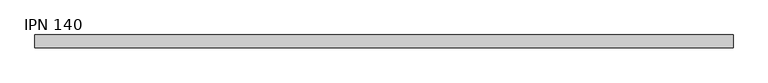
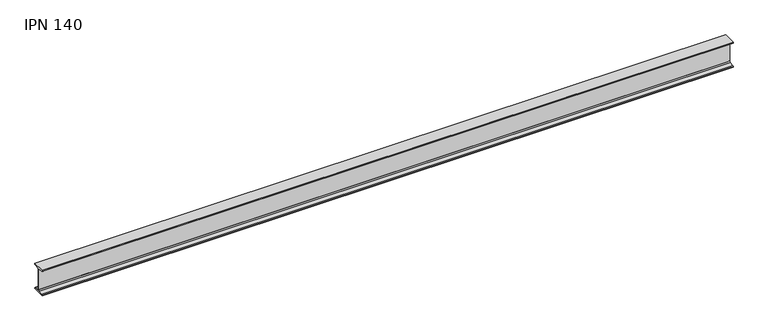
"""IFC4 building model written with IfcOpenShell, lengths in millimetres: beam geometry, IPN - Secciones en I con alas cónicas : IPN 140."""

import ifcopenshell
import ifcopenshell.guid

model = None  # the IFC model being written
_history = None  # IfcOwnerHistory: only IFC2X3 demands one
_inside = {}  # id of a spatial element -> (the spatial element, [elements in it])
_under = {}  # id of a project, library or spatial element -> (it, [spatial elements below it])
_declared = {}  # id of a project -> (the project, [libraries it declares])
_typed = {}  # id of a type object -> (the type object, [elements of that type])
_made_of = {}  # id of a material, layer set ... -> (it, [elements and type objects made of it])


def new_model(schema):
    """Start an empty IFC model of exactly this schema.

    Asked for "IFC4X3", IfcOpenShell would pick the latest addendum, in which some entities
    have other attributes; the version numbers below select the first issue.
    IFC2X3 requires an IfcOwnerHistory on every rooted entity: one is made here for all.
    """
    global model, _history
    if schema == "IFC4X3":
        model = ifcopenshell.file(schema_version=(4, 3, 0, 0))
    else:
        model = ifcopenshell.file(schema=schema)
    _inside.clear()
    _under.clear()
    _declared.clear()
    _typed.clear()
    _made_of.clear()
    _history = None
    if model.schema == "IFC2X3":
        org = make("IfcOrganization", Name="unknown")
        user = make(
            "IfcPersonAndOrganization",
            ThePerson=make("IfcPerson", FamilyName="unknown"),
            TheOrganization=org,
        )
        app = make(
            "IfcApplication",
            ApplicationDeveloper=org,
            Version="unknown",
            ApplicationFullName="unknown",
            ApplicationIdentifier="unknown",
        )
        _history = make(
            "IfcOwnerHistory",
            OwningUser=user,
            OwningApplication=app,
            ChangeAction="ADDED",
            CreationDate=0,
        )
    return model


def make(cls, **values):
    """One entity of the class cls with the attributes given. An attribute that is None is left unset."""
    return model.create_entity(
        cls, **{name: value for name, value in values.items() if value is not None}
    )


def rooted(cls, **values):
    """An entity with a GlobalId (a new one), such as an element, a storey or a relation."""
    return make(cls, GlobalId=ifcopenshell.guid.new(), OwnerHistory=_history, **values)


def si_unit(unit_type, name, prefix=None):
    """IfcSIUnit, for example si_unit("LENGTHUNIT", "METRE", prefix="MILLI")."""
    return make("IfcSIUnit", UnitType=unit_type, Prefix=prefix, Name=name)


def assignment(units):
    """IfcUnitAssignment: the units of a project."""
    return None if units is None else make("IfcUnitAssignment", Units=units)


def point(xyz):
    """IfcCartesianPoint."""
    return None if xyz is None else make("IfcCartesianPoint", Coordinates=xyz)


def direction(xyz):
    """IfcDirection."""
    return None if xyz is None else make("IfcDirection", DirectionRatios=xyz)


def frame(location, z_axis=None, x_axis=None):
    """IfcAxis2Placement3D, a coordinate frame: its origin and axes. An axis left out is left unset."""
    return make(
        "IfcAxis2Placement3D",
        Location=point(location),
        Axis=direction(z_axis),
        RefDirection=direction(x_axis),
    )


def frame_2d(location, x_axis=None):
    """IfcAxis2Placement2D, a coordinate frame in the plane: its origin and x axis."""
    return make(
        "IfcAxis2Placement2D", Location=point(location), RefDirection=direction(x_axis)
    )


def origin():
    """The frame at (0, 0, 0) with its axes left unset."""
    return frame((0.0, 0.0, 0.0))


def place(relative_to, where):
    """IfcLocalPlacement: puts the frame where relative to a parent placement (None: the world)."""
    return make(
        "IfcLocalPlacement", PlacementRelTo=relative_to, RelativePlacement=where
    )


def context(
    kind, dimensions, precision=None, world=None, true_north=None, identifier=None
):
    """IfcGeometricRepresentationContext, for example the 3D "Model" context."""
    return make(
        "IfcGeometricRepresentationContext",
        ContextIdentifier=identifier,
        ContextType=kind,
        CoordinateSpaceDimension=dimensions,
        Precision=precision,
        WorldCoordinateSystem=world,
        TrueNorth=true_north,
    )


def project(units=None, contexts=None):
    """IfcProject with its units and contexts."""
    return rooted(
        "IfcProject",
        Name="project",
        RepresentationContexts=contexts,
        UnitsInContext=assignment(units),
    )


def spatial(cls, under=None, at=None, **own):
    """A site, building, storey or space (cls), placed at a placement, below another one or the project."""
    s = rooted(cls, ObjectPlacement=at, **own)
    if under is not None:
        _under.setdefault(under.id(), (under, []))[1].append(s)
    return s


def polyline(points):
    """IfcPolyline through the points."""
    return make("IfcPolyline", Points=[point(p) for p in points])


def circle_curve(where, radius):
    """IfcCircle in the frame where."""
    return make("IfcCircle", Position=where, Radius=radius)


def trimmed(basis, trim1, trim2, sense, master):
    """IfcTrimmedCurve: the piece of a basis curve between two trims."""
    return make(
        "IfcTrimmedCurve",
        BasisCurve=basis,
        Trim1=trim1,
        Trim2=trim2,
        SenseAgreement=sense,
        MasterRepresentation=master,
    )


def segment(curve, same_sense, transition):
    """IfcCompositeCurveSegment."""
    return make(
        "IfcCompositeCurveSegment",
        Transition=transition,
        SameSense=same_sense,
        ParentCurve=curve,
    )


def composite_curve(segments, self_intersect=None):
    """IfcCompositeCurve: segments joined end to end."""
    return make("IfcCompositeCurve", Segments=segments, SelfIntersect=self_intersect)


def outline(outer, holes=None, kind="AREA"):
    """IfcArbitraryClosedProfileDef: a profile drawn as a closed curve; with holes, ...WithVoids."""
    if holes is None:
        return make("IfcArbitraryClosedProfileDef", ProfileType=kind, OuterCurve=outer)
    return make(
        "IfcArbitraryProfileDefWithVoids",
        ProfileType=kind,
        OuterCurve=outer,
        InnerCurves=holes,
    )


def extrude(swept, where, along, depth):
    """IfcExtrudedAreaSolid: the profile swept, set in the frame where, extruded along a direction by depth."""
    return make(
        "IfcExtrudedAreaSolid",
        SweptArea=swept,
        Position=where,
        ExtrudedDirection=direction(along),
        Depth=depth,
    )


def shape(context_of_items, identifier, shape_type, items):
    """IfcShapeRepresentation: the items that make up one representation, for example the "Body"."""
    return make(
        "IfcShapeRepresentation",
        ContextOfItems=context_of_items,
        RepresentationIdentifier=identifier,
        RepresentationType=shape_type,
        Items=items,
    )


def source(mapping_origin, context_of_items, identifier, shape_type, items):
    """IfcRepresentationMap: a shape defined once, which mapped items show again and again."""
    return make(
        "IfcRepresentationMap",
        MappingOrigin=mapping_origin,
        MappedRepresentation=shape(context_of_items, identifier, shape_type, items),
    )


def transform(
    local_origin,
    x_axis=None,
    y_axis=None,
    z_axis=None,
    scale=None,
    scale2=None,
    scale3=None,
    uniform=True,
):
    """IfcCartesianTransformationOperator3D, or its non-uniform kind. x_axis, y_axis, z_axis: its Axis1, 2, 3."""
    if uniform:
        return make(
            "IfcCartesianTransformationOperator3D",
            Axis1=direction(x_axis),
            Axis2=direction(y_axis),
            LocalOrigin=point(local_origin),
            Scale=scale,
            Axis3=direction(z_axis),
        )
    return make(
        "IfcCartesianTransformationOperator3DnonUniform",
        Axis1=direction(x_axis),
        Axis2=direction(y_axis),
        LocalOrigin=point(local_origin),
        Scale=scale,
        Axis3=direction(z_axis),
        Scale2=scale2,
        Scale3=scale3,
    )


def mapped(mapping_source, mapping_target):
    """IfcMappedItem: shows the shape of a source again, moved by a transform."""
    return make(
        "IfcMappedItem", MappingSource=mapping_source, MappingTarget=mapping_target
    )


def made_of(thing, what):
    """Note that an element or type object is made of a material, layer set ...; save() writes the relation."""
    if what is not None:
        _made_of.setdefault(what.id(), (what, []))[1].append(thing)
    return thing


def element(
    cls,
    number,
    at=None,
    inside=None,
    cuts=None,
    type_object=None,
    material=None,
    context=None,
    identifier="Body",
    shape_type=None,
    held_by="IfcProductDefinitionShape",
    body=None,
    shapes=None,
    **own,
):
    """One element of the class cls, such as IfcWall. Its Tag is "e" and its number.

    at: its placement. inside: the storey or other place that contains it. cuts: it is an
    opening in that element (IfcRelVoidsElement). A single representation is given by context,
    identifier, shape_type and body (its items); several are given by shapes. held_by: the class
    of the entity that holds the representations. save() writes the other relations.
    """
    e = rooted(cls, Tag="e%d" % number, ObjectPlacement=at, **own)
    if body is not None:
        shapes = [shape(context, identifier, shape_type, body)]
    if shapes is not None:
        e.Representation = make(held_by, Representations=shapes)
    if inside is not None:
        _inside.setdefault(inside.id(), (inside, []))[1].append(e)
    if cuts is not None:
        rooted(
            "IfcRelVoidsElement", RelatingBuildingElement=cuts, RelatedOpeningElement=e
        )
    if type_object is not None:
        _typed.setdefault(type_object.id(), (type_object, []))[1].append(e)
    return made_of(e, material)


def aggregate(whole, parts):
    """IfcRelAggregates: a whole, such as a stair, and the parts it consists of."""
    return rooted("IfcRelAggregates", RelatingObject=whole, RelatedObjects=parts)


def save(model, path):
    """Write the relations noted so far, then the file.

    IfcRelAggregates (storeys below a building ...), IfcRelContainedInSpatialStructure (elements
    in a storey), IfcRelDefinesByType, IfcRelAssociatesMaterial and IfcRelDeclares: one each for
    every whole, place, type object, material and project.
    """
    for whole, parts in _under.values():
        aggregate(whole, parts)
    for where, things in _inside.values():
        rooted(
            "IfcRelContainedInSpatialStructure",
            RelatedElements=things,
            RelatingStructure=where,
        )
    for kind, things in _typed.values():
        rooted("IfcRelDefinesByType", RelatedObjects=things, RelatingType=kind)
    for what, things in _made_of.values():
        rooted("IfcRelAssociatesMaterial", RelatedObjects=things, RelatingMaterial=what)
    for by, libraries in _declared.values():
        rooted("IfcRelDeclares", RelatingContext=by, RelatedDefinitions=libraries)
    model.write(path)


def ipn_140_421eb129(model_context):
    return source(origin(), model_context, "Body", "SweptSolid", [
        extrude(outline(composite_curve([segment(polyline([(33.0, 70.0), (33.0, 66.6671583)]), True, "CONTINUOUS"), segment(trimmed(circle_curve(frame_2d((29.6, 66.6671583)), 3.4), [point((33.0, 66.6671583))], [point((30.0714027, 63.2999964))], False, "CARTESIAN"), True, "CONTINUOUS"), segment(polyline([(30.0714027, 63.2999964), (7.7597073, 60.176359)]), True, "CONTINUOUS"), segment(trimmed(circle_curve(frame_2d((8.55, 54.5314111)), 5.7), [point((7.7597073, 60.176359))], [point((2.85, 54.5314111))], True, "CARTESIAN"), True, "CONTINUOUS"), segment(polyline([(2.85, 54.5314111), (2.85, -54.5314111)]), True, "CONTINUOUS"), segment(trimmed(circle_curve(frame_2d((8.55, -54.5314111)), 5.7), [point((2.85, -54.5314111))], [point((7.7597073, -60.176359))], True, "CARTESIAN"), True, "CONTINUOUS"), segment(polyline([(7.7597073, -60.176359), (30.0714027, -63.2999964)]), True, "CONTINUOUS"), segment(trimmed(circle_curve(frame_2d((29.6, -66.6671583)), 3.4), [point((30.0714027, -63.2999964))], [point((33.0, -66.6671583))], False, "CARTESIAN"), True, "CONTINUOUS"), segment(polyline([(33.0, -66.6671583), (33.0, -70.0), (-33.0, -70.0), (-33.0, -66.6671583)]), True, "CONTINUOUS"), segment(trimmed(circle_curve(frame_2d((-29.6, -66.6671583)), 3.4), [point((-33.0, -66.6671583))], [point((-30.0714027, -63.2999964))], False, "CARTESIAN"), True, "CONTINUOUS"), segment(polyline([(-30.0714027, -63.2999964), (-7.7597073, -60.176359)]), True, "CONTINUOUS"), segment(trimmed(circle_curve(frame_2d((-8.55, -54.5314111)), 5.7), [point((-7.7597073, -60.176359))], [point((-2.85, -54.5314111))], True, "CARTESIAN"), True, "CONTINUOUS"), segment(polyline([(-2.85, -54.5314111), (-2.85, 54.5314111)]), True, "CONTINUOUS"), segment(trimmed(circle_curve(frame_2d((-8.55, 54.5314111)), 5.7), [point((-2.85, 54.5314111))], [point((-7.7597073, 60.176359))], True, "CARTESIAN"), True, "CONTINUOUS"), segment(polyline([(-7.7597073, 60.176359), (-30.0714027, 63.2999964)]), True, "CONTINUOUS"), segment(trimmed(circle_curve(frame_2d((-29.6, 66.6671583)), 3.4), [point((-30.0714027, 63.2999964))], [point((-33.0, 66.6671583))], False, "CARTESIAN"), True, "CONTINUOUS"), segment(polyline([(-33.0, 66.6671583), (-33.0, 70.0), (33.0, 70.0)]), True, "CONTINUOUS")], self_intersect=False)), frame((-1808.5, 0.0, 0.0), z_axis=(1.0, 0.0, 0.0), x_axis=(0.0, 1.0, 0.0)), (0.0, 0.0, 1.0), 3629.0),
    ])


if __name__ == "__main__":
    model = new_model("IFC4")
    model_context = context("Model", 3, world=origin())
    ifc_project = project(units=[si_unit("LENGTHUNIT", "METRE", prefix="MILLI")], contexts=[model_context])
    site = spatial("IfcSite", under=ifc_project)
    building = spatial("IfcBuilding", under=site)
    placement = place(None, origin())
    ipn_140_shape = ipn_140_421eb129(model_context)
    element("IfcBeam", 1, ObjectType="IPN - Secciones en I con alas cónicas : IPN 140", at=placement, inside=building, context=model_context, shape_type="MappedRepresentation", body=[
        mapped(ipn_140_shape, transform((0.0, 0.0, 0.0), x_axis=(1.0, 0.0, 0.0), y_axis=(0.0, 1.0, 0.0), z_axis=(0.0, 0.0, 1.0))),
    ])
    save(model, "model.ifc")
